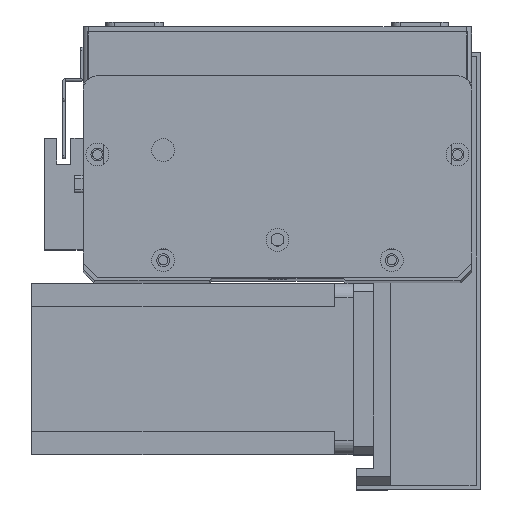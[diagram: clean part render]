
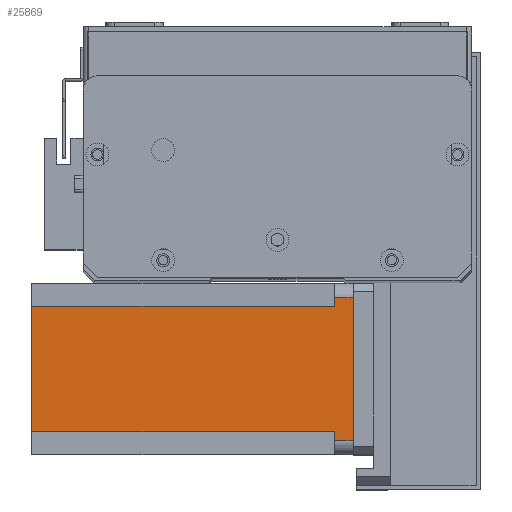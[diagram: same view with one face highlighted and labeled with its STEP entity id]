
A CAD part, top view. The second image highlights one B-rep face of the part: STEP entity #25869.
In plain terms, the highlighted planar face has unit normal (0, 0, 1) as drawn and (0, -1, 0) by its records, which use the part's own axes.
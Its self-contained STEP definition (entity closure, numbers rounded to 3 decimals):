
#160 = LINE ( 'NONE', #18031, #12052 ) ;
#194 = ORIENTED_EDGE ( 'NONE', *, *, #22286, .T. ) ;
#370 = CARTESIAN_POINT ( 'NONE',  ( 0., 0., -112.5 ) ) ;
#1059 = DIRECTION ( 'NONE',  ( 0., 0., -1. ) ) ;
#2004 = CARTESIAN_POINT ( 'NONE',  ( 8., 0., -112.5 ) ) ;
#2201 = CARTESIAN_POINT ( 'NONE',  ( 8., 0., -112.5 ) ) ;
#2366 = CARTESIAN_POINT ( 'NONE',  ( 8., 0., -6.5 ) ) ;
#2813 = VECTOR ( 'NONE', #1059, 1000. ) ;
#4081 = ORIENTED_EDGE ( 'NONE', *, *, #26386, .F. ) ;
#4186 = CARTESIAN_POINT ( 'NONE',  ( 52., 0., -6.5 ) ) ;
#4200 = LINE ( 'NONE', #28024, #9455 ) ;
#4823 = VECTOR ( 'NONE', #12232, 1000. ) ;
#5458 = ORIENTED_EDGE ( 'NONE', *, *, #16681, .F. ) ;
#5766 = VECTOR ( 'NONE', #26859, 1000. ) ;
#6303 = EDGE_LOOP ( 'NONE', ( #25358, #27381, #5458, #194, #12663, #4081, #7043, #13036 ) ) ;
#6314 = CARTESIAN_POINT ( 'NONE',  ( 55., 0., -6.5 ) ) ;
#7043 = ORIENTED_EDGE ( 'NONE', *, *, #27123, .T. ) ;
#8988 = VECTOR ( 'NONE', #22414, 1000. ) ;
#9071 = DIRECTION ( 'NONE',  ( 0., -1., 0. ) ) ;
#9455 = VECTOR ( 'NONE', #21666, 1000. ) ;
#9483 = LINE ( 'NONE', #370, #21329 ) ;
#9655 = VERTEX_POINT ( 'NONE', #10244 ) ;
#10142 = VERTEX_POINT ( 'NONE', #2201 ) ;
#10244 = CARTESIAN_POINT ( 'NONE',  ( 5., 0., -6.5 ) ) ;
#10864 = DIRECTION ( 'NONE',  ( 0., 0., 1. ) ) ;
#11636 = VERTEX_POINT ( 'NONE', #4186 ) ;
#12052 = VECTOR ( 'NONE', #15779, 1000. ) ;
#12169 = CARTESIAN_POINT ( 'NONE',  ( 52., 0., -112.5 ) ) ;
#12232 = DIRECTION ( 'NONE',  ( 1., 0., 0. ) ) ;
#12556 = CARTESIAN_POINT ( 'NONE',  ( 52., 0., -6.5 ) ) ;
#12663 = ORIENTED_EDGE ( 'NONE', *, *, #24229, .F. ) ;
#12836 = CARTESIAN_POINT ( 'NONE',  ( 52., 0., -112.5 ) ) ;
#13036 = ORIENTED_EDGE ( 'NONE', *, *, #27663, .F. ) ;
#13422 = PLANE ( 'NONE',  #25610 ) ;
#14917 = LINE ( 'NONE', #2366, #8988 ) ;
#15092 = VERTEX_POINT ( 'NONE', #18543 ) ;
#15352 = VERTEX_POINT ( 'NONE', #12836 ) ;
#15388 = EDGE_CURVE ( 'NONE', #11636, #28548, #18744, .T. ) ;
#15779 = DIRECTION ( 'NONE',  ( 1., 0., 0. ) ) ;
#15952 = DIRECTION ( 'NONE',  ( 1., 0., 0. ) ) ;
#16681 = EDGE_CURVE ( 'NONE', #20925, #15092, #160, .T. ) ;
#17450 = EDGE_CURVE ( 'NONE', #28548, #15092, #18275, .T. ) ;
#18031 = CARTESIAN_POINT ( 'NONE',  ( 0., 0., 0. ) ) ;
#18275 = LINE ( 'NONE', #24662, #5766 ) ;
#18543 = CARTESIAN_POINT ( 'NONE',  ( 55., 0., 0. ) ) ;
#18744 = LINE ( 'NONE', #12556, #4823 ) ;
#19945 = VECTOR ( 'NONE', #10864, 1000. ) ;
#20657 = LINE ( 'NONE', #2004, #19945 ) ;
#20925 = VERTEX_POINT ( 'NONE', #21446 ) ;
#21329 = VECTOR ( 'NONE', #15952, 1000. ) ;
#21446 = CARTESIAN_POINT ( 'NONE',  ( 5., 0., 0. ) ) ;
#21666 = DIRECTION ( 'NONE',  ( 0., 0., -1. ) ) ;
#22084 = FACE_OUTER_BOUND ( 'NONE', #6303, .T. ) ;
#22286 = EDGE_CURVE ( 'NONE', #20925, #9655, #4200, .T. ) ;
#22360 = CARTESIAN_POINT ( 'NONE',  ( 0., 0., -112.5 ) ) ;
#22414 = DIRECTION ( 'NONE',  ( -1., 0., 0. ) ) ;
#24229 = EDGE_CURVE ( 'NONE', #26741, #9655, #14917, .T. ) ;
#24473 = DIRECTION ( 'NONE',  ( 0., 0., -1. ) ) ;
#24662 = CARTESIAN_POINT ( 'NONE',  ( 55., 0., -112.5 ) ) ;
#25358 = ORIENTED_EDGE ( 'NONE', *, *, #15388, .T. ) ;
#25497 = CARTESIAN_POINT ( 'NONE',  ( 8., 0., -6.5 ) ) ;
#25610 = AXIS2_PLACEMENT_3D ( 'NONE', #22360, #9071, #24473 ) ;
#25869 = ADVANCED_FACE ( 'NONE', ( #22084 ), #13422, .T. ) ;
#26335 = LINE ( 'NONE', #12169, #2813 ) ;
#26386 = EDGE_CURVE ( 'NONE', #10142, #26741, #20657, .T. ) ;
#26741 = VERTEX_POINT ( 'NONE', #25497 ) ;
#26859 = DIRECTION ( 'NONE',  ( 0., 0., 1. ) ) ;
#27123 = EDGE_CURVE ( 'NONE', #10142, #15352, #9483, .T. ) ;
#27381 = ORIENTED_EDGE ( 'NONE', *, *, #17450, .T. ) ;
#27663 = EDGE_CURVE ( 'NONE', #11636, #15352, #26335, .T. ) ;
#28024 = CARTESIAN_POINT ( 'NONE',  ( 5., 0., -112.5 ) ) ;
#28548 = VERTEX_POINT ( 'NONE', #6314 ) ;
